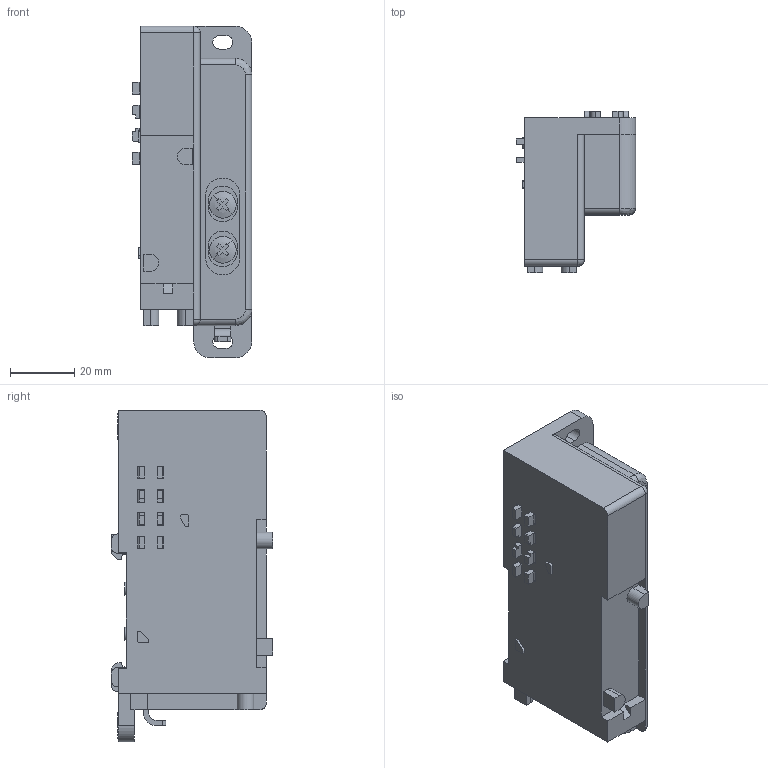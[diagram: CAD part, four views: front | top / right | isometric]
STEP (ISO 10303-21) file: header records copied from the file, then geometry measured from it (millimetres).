
FILE_DESCRIPTION( (''), '2;1');
FILE_NAME ('CVICAD02.18556.F10ZX-RN-DN_7282.stp','2020-09-01T14:17:51',(''),(''),'spGate 12.6.6','','');
FILE_SCHEMA (('AUTOMOTIVE_DESIGN'));
Length unit declared in the file: millimetre
Bounding box: 37.1 x 50.2 x 103 mm (x, y, z)
Surface area: 19491.7 mm2 (no closed solid volume)
Topology: 0 solids, 1 shells, 352 faces, 943 edges, 619 vertices
Faces by surface type: plane 258, cylinder 82, bspline 6, sphere 6
Entity records: 18491 total; most frequent: CARTESIAN_POINT 2054, ORIENTED_EDGE 1879, DIRECTION 1810, COLOUR_RGB 1294, PRESENTATION_STYLE_ASSIGNMENT 1294, STYLED_ITEM 1294, EDGE_CURVE 941, DRAUGHTING_PRE_DEFINED_CURVE_FONT 941
